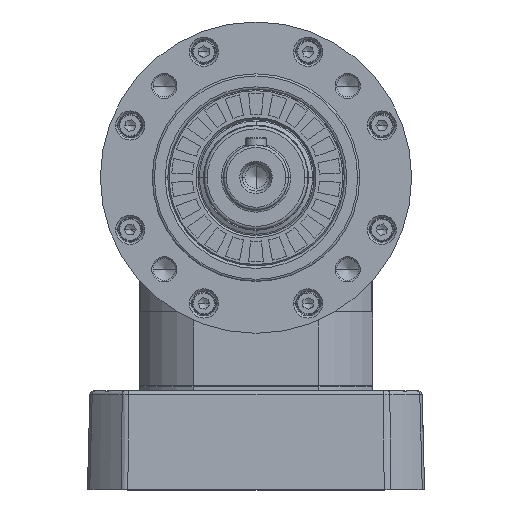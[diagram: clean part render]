
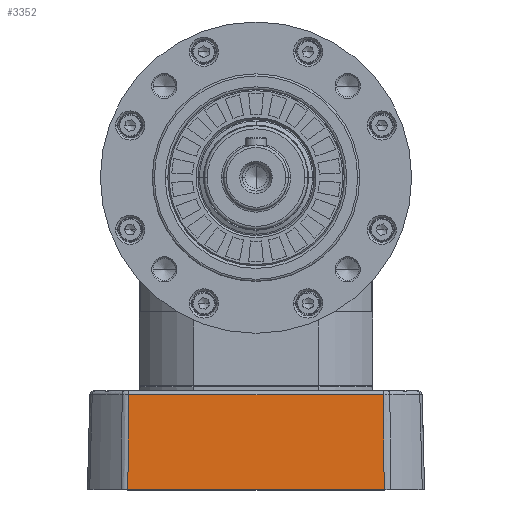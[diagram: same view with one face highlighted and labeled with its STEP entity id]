
A CAD part, top view. The second image highlights one B-rep face of the part: STEP entity #3352.
In plain terms, the highlighted planar face has unit normal (0, 0.026, 1).
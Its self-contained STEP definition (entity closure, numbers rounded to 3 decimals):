
#364 = CARTESIAN_POINT ( 'NONE',  ( 25.493, -113.28, 75.246 ) ) ;
#593 = VECTOR ( 'NONE', #77889, 1000. ) ;
#1645 = LINE ( 'NONE', #69878, #5826 ) ;
#3352 = ADVANCED_FACE ( 'NONE', ( #16874 ), #10321, .T. ) ;
#5826 = VECTOR ( 'NONE', #56340, 1000. ) ;
#6694 = AXIS2_PLACEMENT_3D ( 'NONE', #80132, #23079, #48933 ) ;
#10321 = PLANE ( 'NONE',  #6694 ) ;
#11125 = VERTEX_POINT ( 'NONE', #40728 ) ;
#11171 = VERTEX_POINT ( 'NONE', #49312 ) ;
#12137 = EDGE_LOOP ( 'NONE', ( #25146, #71541, #17337, #71132 ) ) ;
#16874 = FACE_OUTER_BOUND ( 'NONE', #12137, .T. ) ;
#17337 = ORIENTED_EDGE ( 'NONE', *, *, #49583, .T. ) ;
#23079 = DIRECTION ( 'NONE',  ( 0., 0.026, 1. ) ) ;
#25146 = ORIENTED_EDGE ( 'NONE', *, *, #59031, .F. ) ;
#27405 = LINE ( 'NONE', #57767, #593 ) ;
#34265 = CARTESIAN_POINT ( 'NONE',  ( -73.326, -113.28, 75.246 ) ) ;
#36986 = DIRECTION ( 'NONE',  ( 0.009, -1., 0.026 ) ) ;
#37702 = VERTEX_POINT ( 'NONE', #34265 ) ;
#40728 = CARTESIAN_POINT ( 'NONE',  ( 25.493, -113.28, 75.246 ) ) ;
#43799 = VECTOR ( 'NONE', #78888, 1000. ) ;
#45842 = VECTOR ( 'NONE', #36986, 1000. ) ;
#48500 = LINE ( 'NONE', #78489, #43799 ) ;
#48933 = DIRECTION ( 'NONE',  ( 0., -1., 0.026 ) ) ;
#49312 = CARTESIAN_POINT ( 'NONE',  ( -72.986, -76.74, 74.289 ) ) ;
#49583 = EDGE_CURVE ( 'NONE', #11171, #37702, #48500, .T. ) ;
#50806 = EDGE_CURVE ( 'NONE', #11171, #79529, #27405, .T. ) ;
#56340 = DIRECTION ( 'NONE',  ( 1., 0., 0. ) ) ;
#57767 = CARTESIAN_POINT ( 'NONE',  ( -23.917, -76.74, 74.289 ) ) ;
#59031 = EDGE_CURVE ( 'NONE', #79529, #11125, #67826, .T. ) ;
#67826 = LINE ( 'NONE', #364, #45842 ) ;
#68038 = EDGE_CURVE ( 'NONE', #37702, #11125, #1645, .T. ) ;
#69134 = CARTESIAN_POINT ( 'NONE',  ( 25.153, -76.74, 74.289 ) ) ;
#69878 = CARTESIAN_POINT ( 'NONE',  ( 26.889, -113.28, 75.246 ) ) ;
#71132 = ORIENTED_EDGE ( 'NONE', *, *, #68038, .T. ) ;
#71541 = ORIENTED_EDGE ( 'NONE', *, *, #50806, .F. ) ;
#77889 = DIRECTION ( 'NONE',  ( 1., 0., 0. ) ) ;
#78489 = CARTESIAN_POINT ( 'NONE',  ( -72.986, -76.74, 74.289 ) ) ;
#78888 = DIRECTION ( 'NONE',  ( -0.009, -1., 0.026 ) ) ;
#79529 = VERTEX_POINT ( 'NONE', #69134 ) ;
#80132 = CARTESIAN_POINT ( 'NONE',  ( 26.889, -113.28, 75.246 ) ) ;
